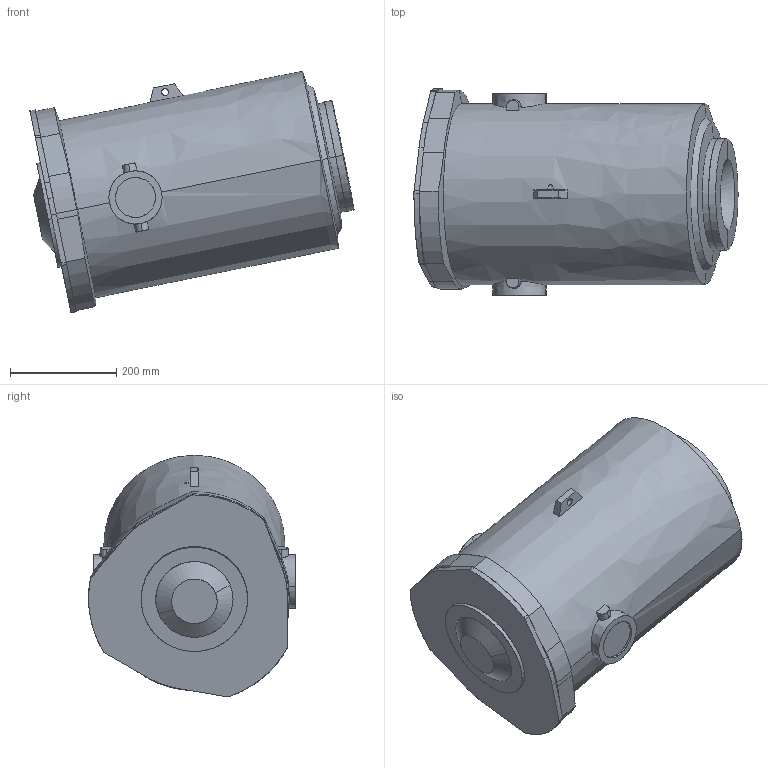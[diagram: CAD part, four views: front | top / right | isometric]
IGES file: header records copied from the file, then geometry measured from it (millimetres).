
Start section: SolidWorks IGES file using analytic representation for surfaces
Global section: file name: C:\DATA\SAP_DOC\LW\IRB 6730\IRB6730-LID-SW_190kg-310_OC_01_SW_J\Export\IRB6730-LID-SW_190kg-310_OC_01_IGES_J\IRB6730-LID_190kg-310_OC_00_CYL_CAD.igs; native system: SolidWorks 2024; preprocessor: SolidWorks 2024; author: SEJOVAS3; date: 260526.111604; units: millimetre
Bounding box: 609.28 x 389 x 454.18 mm (x, y, z)
Surface area: 920113.8 mm2 (no closed solid volume)
Topology: 0 solids, 0 shells, 124 faces, 2344 edges, 2344 vertices
Faces by surface type: revolution 71, bspline 53
